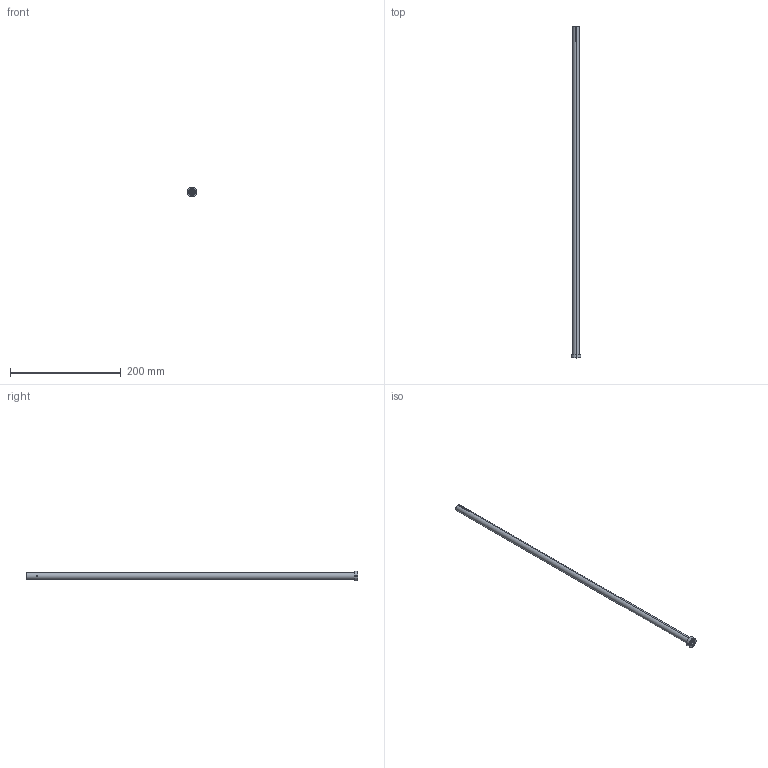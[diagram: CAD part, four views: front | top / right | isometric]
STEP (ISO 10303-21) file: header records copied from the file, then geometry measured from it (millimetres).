
FILE_DESCRIPTION (( 'STEP AP203' ), '1' );
FILE_NAME ('SGDE-1208x600.STEP', '2019-09-30T12:38:14', ( '' ), ( '' ), 'SwSTEP 2.0', 'SolidWorks 2019', '' );
FILE_SCHEMA (( 'CONFIG_CONTROL_DESIGN' ));
Length unit declared in the file: millimetre
Products named in the file (1): SGDE-1208x600
Bounding box: 18 x 600.8 x 18 mm (x, y, z)
Volume: 47146.3 mm3; surface area: 37055.4 mm2
Topology: 1 solids, 1 shells, 84 faces, 234 edges, 154 vertices
Faces by surface type: cylinder 48, plane 32, cone 4
Entity records: 3449 total; most frequent: CARTESIAN_POINT 1213, ORIENTED_EDGE 468, DIRECTION 422, EDGE_CURVE 234, AXIS2_PLACEMENT_3D 155, VERTEX_POINT 154, VECTOR 112, LINE 112
